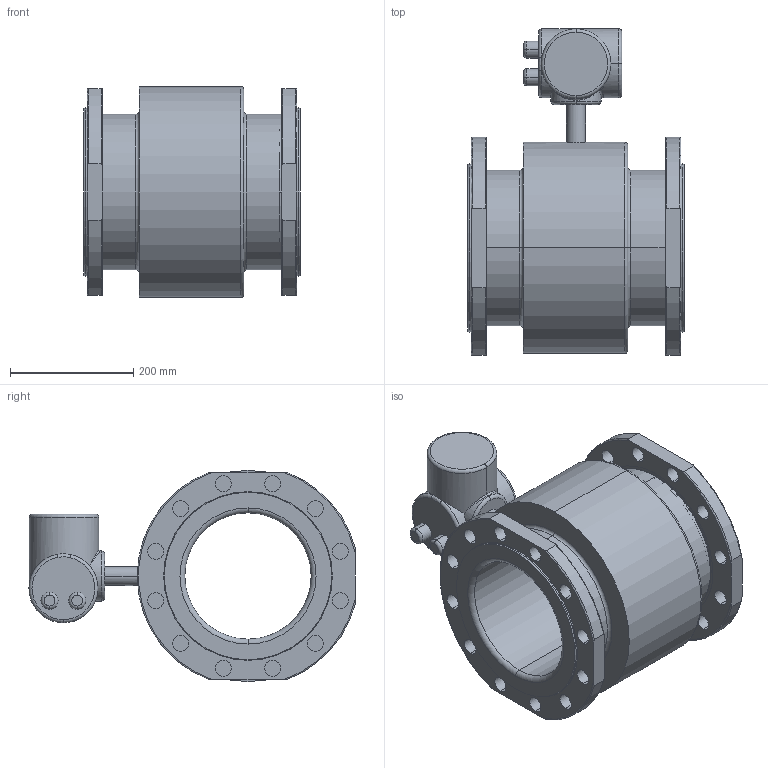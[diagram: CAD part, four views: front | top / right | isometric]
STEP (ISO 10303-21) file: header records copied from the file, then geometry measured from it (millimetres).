
FILE_DESCRIPTION (( 'STEP AP203' ), '1' );
FILE_NAME ('Ðàñõîäîìåð-ñ÷åò÷èê ýëåêòðîìàãíèòíûé ÏÈÒÅÐÔËÎÓ Ò3 - 200 Ex.STEP', '2022-06-23T12:50:13', ( '' ), ( '' ), 'SwSTEP 2.0', 'SolidWorks 2016', '' );
FILE_SCHEMA (( 'CONFIG_CONTROL_DESIGN' ));
Length unit declared in the file: millimetre
Products named in the file (1): Ðàñõîäîìåð-ñ÷åò÷èê ýëåêòðîìàãíèòíûé ÏÈÒÅÐÔËÎÓ Ò3 - 200 Ex
Bounding box: 351 x 530 x 343 mm (x, y, z)
Volume: 17850615.4 mm3; surface area: 1159838.6 mm2
Topology: 2 solids, 4 shells, 223 faces, 541 edges, 342 vertices
Faces by surface type: cylinder 116, plane 44, torus 40, cone 18, bspline 4, sphere 1
Entity records: 9730 total; most frequent: CARTESIAN_POINT 4199, DIRECTION 1219, ORIENTED_EDGE 1074, EDGE_CURVE 537, AXIS2_PLACEMENT_3D 522, VERTEX_POINT 342, CIRCLE 302, EDGE_LOOP 297
